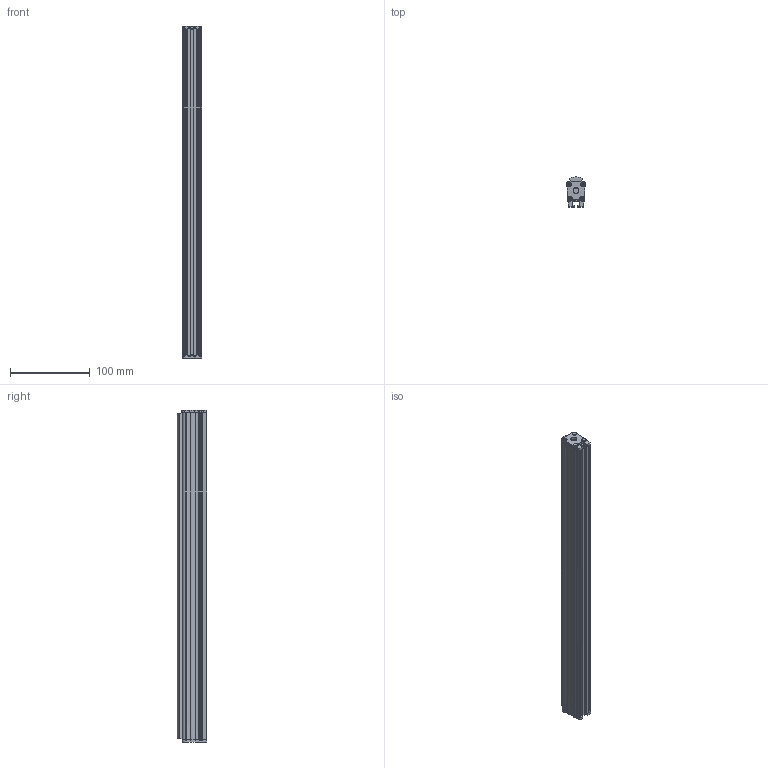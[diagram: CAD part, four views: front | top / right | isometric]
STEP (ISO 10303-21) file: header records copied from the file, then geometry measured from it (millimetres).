
FILE_DESCRIPTION(('STEP AP214'),'1');
FILE_NAME('lin+op 389.stp','2021-02-15T14:44:12',('Blanc'),('Phlox'),'Spatial InterOp 3D',' ',' ');
FILE_SCHEMA(('AUTOMOTIVE_DESIGN { 1 0 10303 214 1 1 1 1 }'));
Length unit declared in the file: inch
Products named in the file (1): Pièce_83634808
Bounding box: 24.54 x 37.28 x 417.29 mm (x, y, z)
Volume: 152978.3 mm3; surface area: 126827.9 mm2
Topology: 6 solids, 6 shells, 380 faces, 1090 edges, 718 vertices
Faces by surface type: cylinder 211, plane 103, bspline 36, cone 16, extrusion 14
Entity records: 25876 total; most frequent: CARTESIAN_POINT 7890, ORIENTED_EDGE 2180, DIRECTION 2086, STYLED_ITEM 1345, PRESENTATION_STYLE_ASSIGNMENT 1345, COLOUR_RGB 1345, EDGE_CURVE 1090, CURVE_STYLE 959
